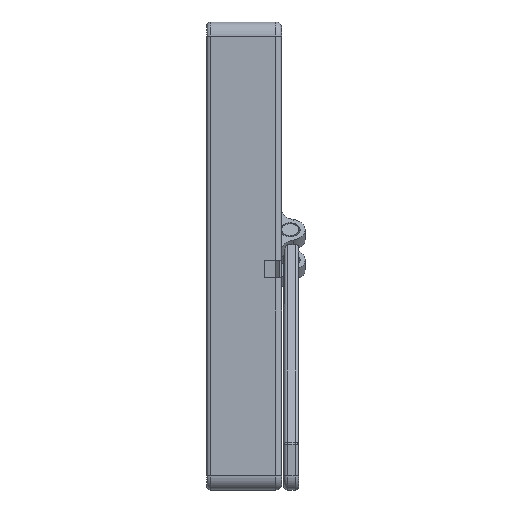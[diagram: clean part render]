
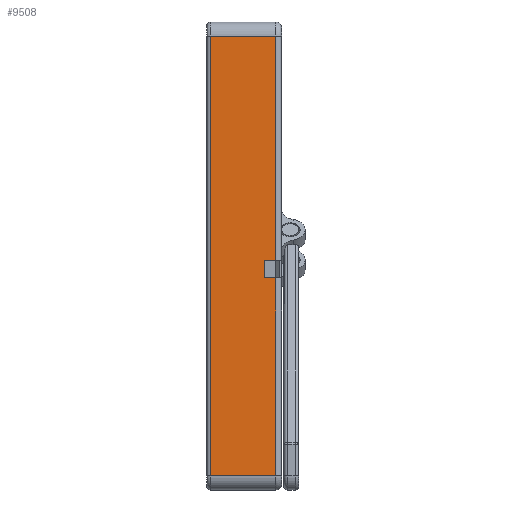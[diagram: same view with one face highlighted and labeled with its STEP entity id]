
A CAD part, left-side view. The second image highlights one B-rep face of the part: STEP entity #9508.
In plain terms, the highlighted planar face has unit normal (-1, 0, 0).
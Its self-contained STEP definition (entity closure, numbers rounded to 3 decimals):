
#3039=DIRECTION('',(0.,1.,0.));
#3040=VECTOR('',#3039,23.2);
#3041=CARTESIAN_POINT('',(-110.,2.,77.5));
#3042=LINE('',#3041,#3040);
#3048=DIRECTION('',(0.,0.,-1.));
#3049=VECTOR('',#3048,69.8);
#3050=CARTESIAN_POINT('',(-110.,2.,-7.7));
#3051=LINE('',#3050,#3049);
#3052=DIRECTION('',(0.,1.,0.));
#3053=VECTOR('',#3052,23.2);
#3054=CARTESIAN_POINT('',(-110.,2.,-77.5));
#3055=LINE('',#3054,#3053);
#3056=DIRECTION('',(0.,0.,1.));
#3057=VECTOR('',#3056,155.);
#3058=CARTESIAN_POINT('',(-110.,25.2,-77.5));
#3059=LINE('',#3058,#3057);
#3060=DIRECTION('',(0.,0.,-1.));
#3061=VECTOR('',#3060,79.2);
#3062=CARTESIAN_POINT('',(-110.,2.,77.5));
#3063=LINE('',#3062,#3061);
#3064=DIRECTION('',(0.,1.,0.));
#3065=VECTOR('',#3064,4.);
#3066=CARTESIAN_POINT('',(-110.,2.,-1.7));
#3067=LINE('',#3066,#3065);
#3068=DIRECTION('',(0.,0.,1.));
#3069=VECTOR('',#3068,6.);
#3070=CARTESIAN_POINT('',(-110.,6.,-7.7));
#3071=LINE('',#3070,#3069);
#3072=DIRECTION('',(0.,1.,0.));
#3073=VECTOR('',#3072,4.);
#3074=CARTESIAN_POINT('',(-110.,2.,-7.7));
#3075=LINE('',#3074,#3073);
#4772=CARTESIAN_POINT('',(-110.,6.,-7.7));
#4773=CARTESIAN_POINT('',(-110.,6.,-1.7));
#4774=VERTEX_POINT('',#4772);
#4775=VERTEX_POINT('',#4773);
#4856=CARTESIAN_POINT('',(-110.,2.,-77.5));
#4857=VERTEX_POINT('',#4856);
#4858=CARTESIAN_POINT('',(-110.,2.,-7.7));
#4860=VERTEX_POINT('',#4858);
#4863=CARTESIAN_POINT('',(-110.,2.,-1.7));
#4865=VERTEX_POINT('',#4863);
#4866=CARTESIAN_POINT('',(-110.,2.,77.5));
#4867=VERTEX_POINT('',#4866);
#4898=CARTESIAN_POINT('',(-110.,25.2,77.5));
#4900=VERTEX_POINT('',#4898);
#4924=CARTESIAN_POINT('',(-110.,25.2,-77.5));
#4925=VERTEX_POINT('',#4924);
#9491=CARTESIAN_POINT('',(-110.,0.,-82.5));
#9492=DIRECTION('',(-1.,0.,0.));
#9493=DIRECTION('',(0.,0.,1.));
#9494=AXIS2_PLACEMENT_3D('',#9491,#9492,#9493);
#9495=PLANE('',#9494);
#9496=ORIENTED_EDGE('',*,*,#9275,.T.);
#9498=ORIENTED_EDGE('',*,*,#9497,.T.);
#9500=ORIENTED_EDGE('',*,*,#9499,.T.);
#9501=ORIENTED_EDGE('',*,*,#9484,.F.);
#9502=ORIENTED_EDGE('',*,*,#8060,.T.);
#9503=ORIENTED_EDGE('',*,*,#8097,.T.);
#9504=ORIENTED_EDGE('',*,*,#8897,.F.);
#9505=ORIENTED_EDGE('',*,*,#9249,.F.);
#9506=EDGE_LOOP('',(#9496,#9498,#9500,#9501,#9502,#9503,#9504,#9505));
#9507=FACE_OUTER_BOUND('',#9506,.F.);
#9508=ADVANCED_FACE('',(#9507),#9495,.T.);
#8060=EDGE_CURVE('',#4867,#4865,#3063,.T.);
#8097=EDGE_CURVE('',#4865,#4775,#3067,.T.);
#8897=EDGE_CURVE('',#4774,#4775,#3071,.T.);
#9249=EDGE_CURVE('',#4860,#4774,#3075,.T.);
#9275=EDGE_CURVE('',#4860,#4857,#3051,.T.);
#9484=EDGE_CURVE('',#4867,#4900,#3042,.T.);
#9497=EDGE_CURVE('',#4857,#4925,#3055,.T.);
#9499=EDGE_CURVE('',#4925,#4900,#3059,.T.);
